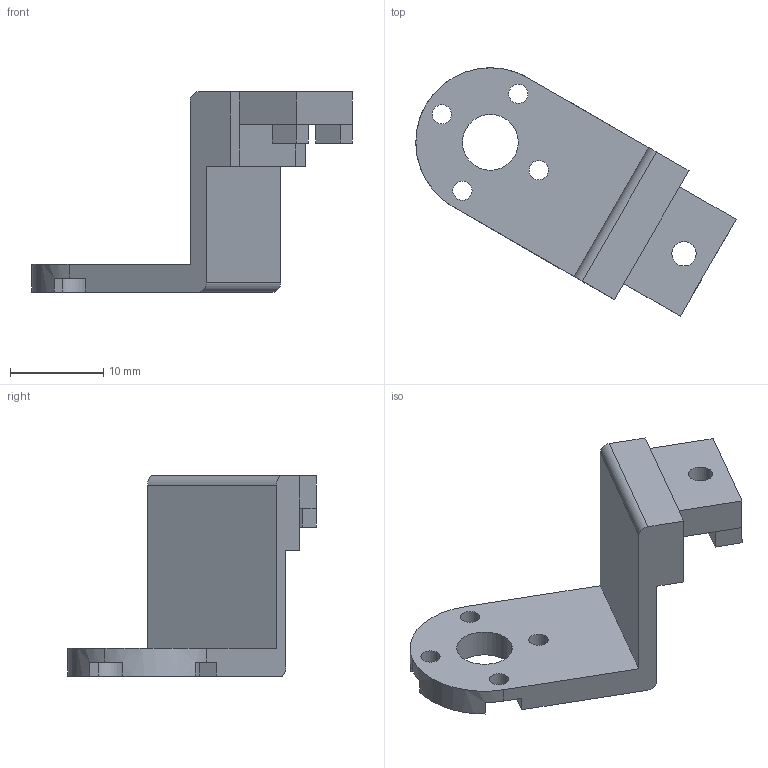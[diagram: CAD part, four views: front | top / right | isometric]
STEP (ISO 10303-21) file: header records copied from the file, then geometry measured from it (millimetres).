
FILE_DESCRIPTION (( 'STEP AP214' ), '1' );
FILE_NAME ('index_4.STEP', '2026-09-17T12:59:54', ( '' ), ( '' ), 'SwSTEP 2.0', 'SolidWorks 2024', '' );
FILE_SCHEMA (( 'AUTOMOTIVE_DESIGN' ));
Length unit declared in the file: millimetre
Products named in the file (2): index_4; 指套-连接.step
Assembly tree (1 placements, depth 2):
  index_4
    指套-连接.step
Bounding box: 34.38 x 26.7 x 21.5 mm (x, y, z)
Volume: 2206.4 mm3; surface area: 2103.3 mm2
Topology: 1 solids, 1 shells, 58 faces, 155 edges, 100 vertices
Faces by surface type: plane 36, cylinder 22
Entity records: 1886 total; most frequent: DIRECTION 327, CARTESIAN_POINT 317, ORIENTED_EDGE 310, EDGE_CURVE 155, AXIS2_PLACEMENT_3D 110, LINE 107, VECTOR 107, VERTEX_POINT 100
